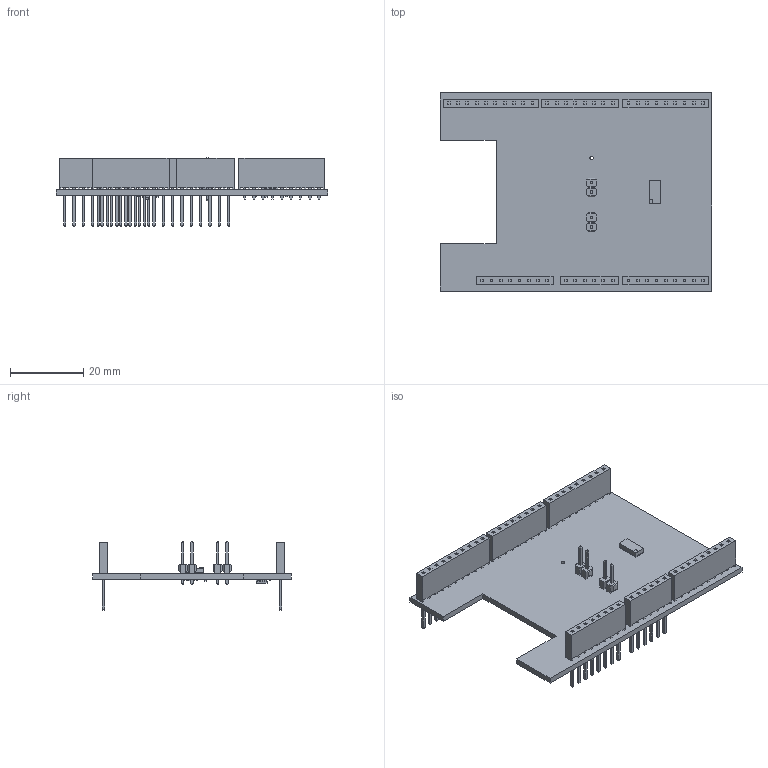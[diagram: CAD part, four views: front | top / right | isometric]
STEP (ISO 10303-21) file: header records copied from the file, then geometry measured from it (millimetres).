
FILE_DESCRIPTION(('Open CASCADE Model'),'2;1');
FILE_NAME('Open CASCADE Shape Model','2022-06-21T10:47:00',('Author'),( 'Open CASCADE'),'Open CASCADE STEP processor 6.8','Open CASCADE 6.8' ,'Unknown');
FILE_SCHEMA(('AUTOMOTIVE_DESIGN { 1 0 10303 214 1 1 1 1 }'));
Length unit declared in the file: millimetre
Products named in the file (60): PCB; Board; Open CASCADE STEP translator 6.8 1.1.1; U2; 6026434272; Extruded; 6026434432; 6026434592; U1; CircuitWorks-SOT-23-5; R7; 6026431792; 6026432032; R2; 6026431552; R1; C2; 6026433632; 6026433872; C1; 6026433392; CN6; SSQ-108-03-F-S; _T1SSQ-108-03-F-S; _P2SSQ-108-03-F-S; CN8; SSQ-106-03-F-S; _T1SSQ-106-03-F-S; _P2SSQ-106-03-F-S; CN9; CN5; SSQ-110-03-F-S; _T1SSQ-110-03-F-S; _P2SSQ-110-03-F-S; J5_Right; SSW-109-01-G-S; _T1SSW-109-01-G-S; _P2SSW-109-01-G-S; J5_Left; R6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
Assembly tree (81 placements, depth 4):
  PCB
    Board
      Open CASCADE STEP translator 6.8 1.1.1
    U2
      6026434272
        Extruded
      6026434432
        Extruded
      6026434592
        Extruded
    U1
      CircuitWorks-SOT-23-5
    R7
      6026431792  x2
        Extruded
      6026432032
        Extruded
    R2
      6026431552
        Extruded
    R1
      6026431552
        Extruded
    C2
      6026433632  x2
        Extruded
      6026433872
        Extruded
    C1
      6026433392
        Extruded
    CN6
      SSQ-108-03-F-S
        _T1SSQ-108-03-F-S
        _P2SSQ-108-03-F-S
    CN8
      SSQ-106-03-F-S
        _T1SSQ-106-03-F-S
        _P2SSQ-106-03-F-S
    CN9
      SSQ-108-03-F-S
        _T1SSQ-108-03-F-S
        _P2SSQ-108-03-F-S
    CN5
      SSQ-110-03-F-S
        _T1SSQ-110-03-F-S
        _P2SSQ-110-03-F-S
    J5_Right
      SSW-109-01-G-S
        _T1SSW-109-01-G-S
        _P2SSW-109-01-G-S
    J5_Left
      SSW-109-01-G-S
        _T1SSW-109-01-G-S
        _P2SSW-109-01-G-S
    R6
      6026431792  x2
        Extruded
      6026432032
        Extruded
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Bounding box: 74 x 54 x 18.63 mm (x, y, z)
Volume: 8204.1 mm3; surface area: 13845.2 mm2
Topology: 48 solids, 48 shells, 1362 faces, 3578 edges, 2362 vertices
Faces by surface type: plane 1275, cylinder 87
Full cylindrical faces by diameter (mm): 0.3 x12, 1 x37, 1.1 x18
Entity records: 32687 total; most frequent: CARTESIAN_POINT 4831, ORIENTED_EDGE 4672, DIRECTION 4408, EDGE_CURVE 2336, LINE 2162, VECTOR 2162, VERTEX_POINT 1546, AXIS2_PLACEMENT_3D 1123
